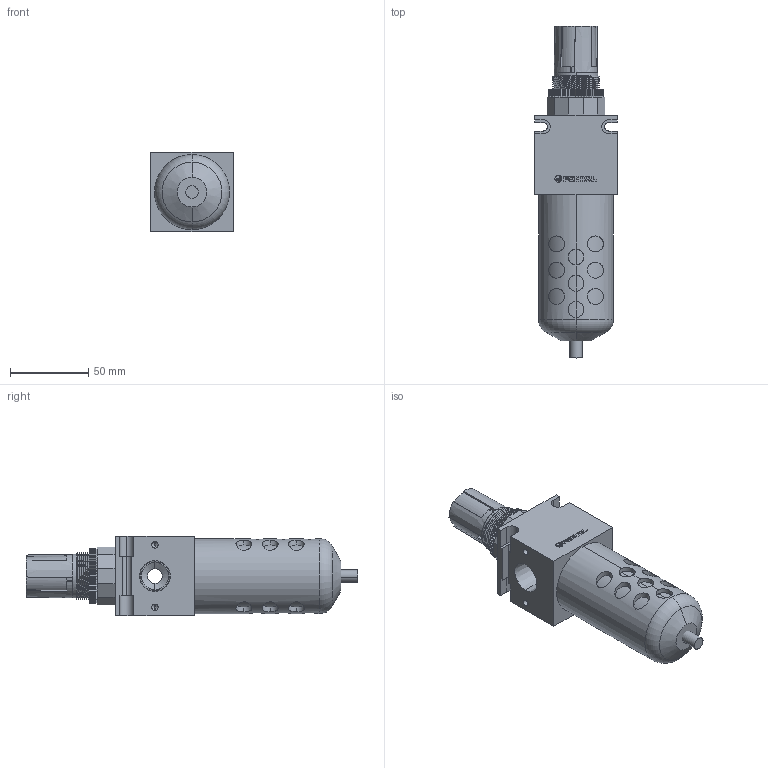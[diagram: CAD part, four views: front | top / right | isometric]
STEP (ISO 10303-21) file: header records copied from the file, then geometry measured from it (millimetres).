
FILE_DESCRIPTION (( 'STEP AP203' ), '1' );
FILE_NAME ('B55#-04#Y##.STEP', '2016-02-03T08:01:05', ( '' ), ( '' ), 'SwSTEP 2.0', 'SolidWorks 2014', '' );
FILE_SCHEMA (( 'CONFIG_CONTROL_DESIGN' ));
Length unit declared in the file: millimetre
Products named in the file (11): R364-4; R364-5; B55#-04#Y##; R364-3; F55-2; R55-04; F45-MARK; R364-2; F55-04
Assembly tree (10 placements, depth 3):
  B55#-04#Y##
    (unnamed)
      R364-2
      R364-3
      R364-4
      R364-5
    F55-04
      F55-2
      F45-MARK
      (unnamed)
      R55-04
Bounding box: 53 x 212.5 x 51.12 mm (x, y, z)
Volume: 315839.8 mm3; surface area: 53792 mm2
Topology: 14 solids, 14 shells, 515 faces, 1373 edges, 898 vertices
Faces by surface type: plane 276, cylinder 198, cone 25, bspline 14, torus 2
Entity records: 21219 total; most frequent: CARTESIAN_POINT 7387, ORIENTED_EDGE 2730, DIRECTION 2516, EDGE_CURVE 1365, VECTOR 908, LINE 908, VERTEX_POINT 898, AXIS2_PLACEMENT_3D 804
